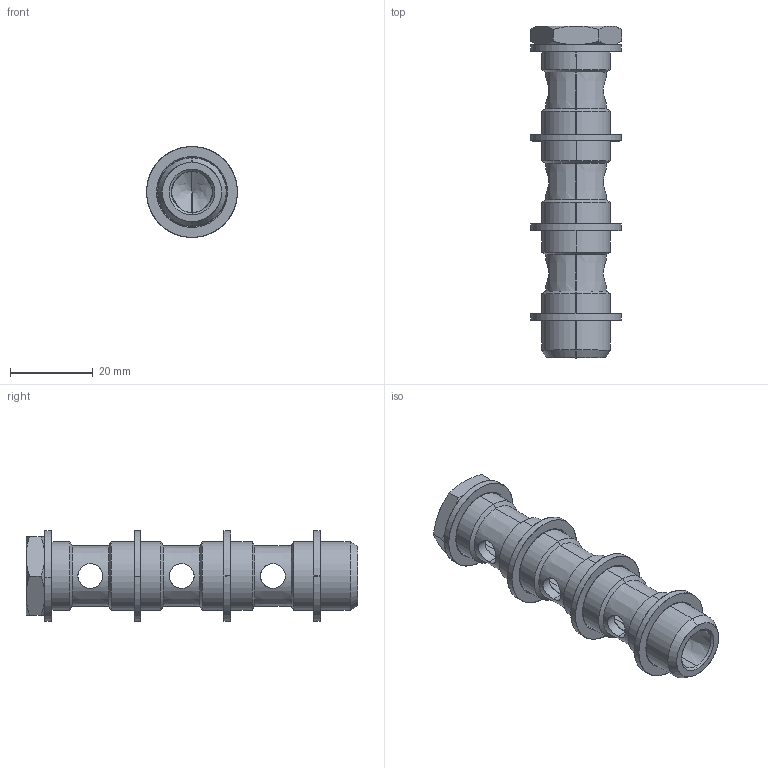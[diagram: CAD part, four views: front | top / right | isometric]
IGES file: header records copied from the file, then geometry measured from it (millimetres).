
Start section: SolidWorks IGES file using analytic representation for surfaces
Global section: file name: K:\Disegni Esecutivi\Serie 50000\ASSIEMI\51430\ASSIEMI_PIENI_51430\5143000013.IGS; native system: SolidWorks 2007; preprocessor: SolidWorks 2007; author: cad02; date: 071011.164352; units: millimetre
Bounding box: 21.94 x 80 x 21.9 mm (x, y, z)
Surface area: 9044.7 mm2 (no closed solid volume)
Topology: 0 solids, 0 shells, 183 faces, 2856 edges, 2854 vertices
Faces by surface type: revolution 102, bspline 81
